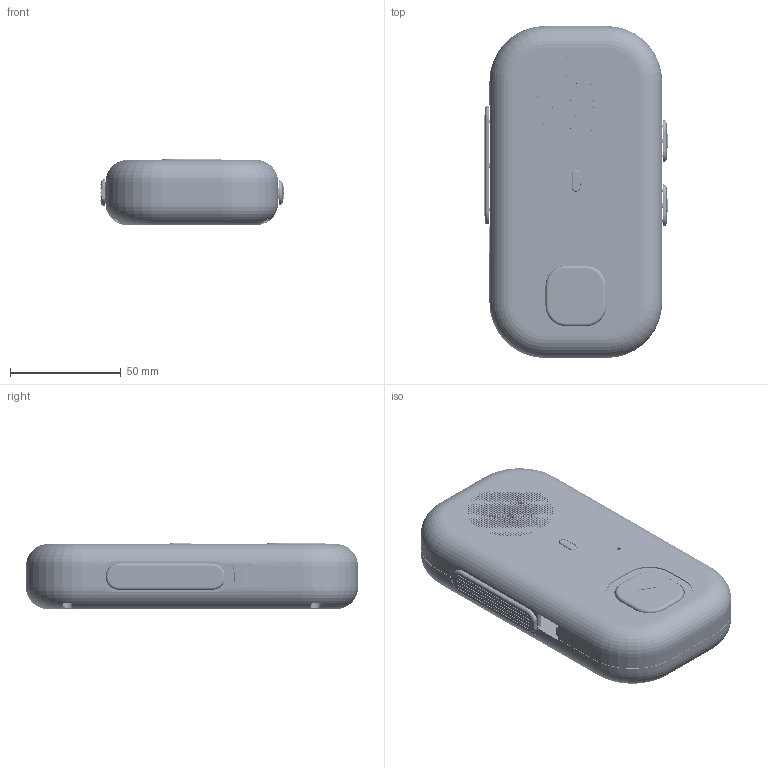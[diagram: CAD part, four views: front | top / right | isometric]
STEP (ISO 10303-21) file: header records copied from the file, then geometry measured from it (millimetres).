
FILE_DESCRIPTION(('Open CASCADE Model'),'2;1');
FILE_NAME('Open CASCADE Shape Model','2026-09-08T12:56:38',('Author'),( 'Open CASCADE'),'Open CASCADE STEP processor 7.7','Open CASCADE 7.7' ,'Unknown');
FILE_SCHEMA(('AUTOMOTIVE_DESIGN { 1 0 10303 214 1 1 1 1 }'));
Length unit declared in the file: millimetre
Products named in the file (22): Walkie_One_26_E1_CASE_REVIEW_ONLY; BACK_SHELL; BACK_SHELL_part; FRONT_ACTION_BUTTON; FRONT_ACTION_BUTTON_part; FRONT_SHELL; FRONT_SHELL_part; FRONT_SWITCH_CLAMP; FRONT_SWITCH_CLAMP_part; LED_SERVICE_CLAMP; LED_SERVICE_CLAMP_part; LEFT_PTT_BUTTON; LEFT_PTT_BUTTON_part; MIC_ACOUSTIC_GASKET_INSTALLED_ENVELOPE; MIC_ACOUSTIC_GASKET_INSTALLED_ENVELOPE_part; STATUS_LIGHT_LENS; STATUS_LIGHT_LENS_part; VOLUME_DOWN_BUTTON; VOLUME_DOWN_BUTTON_part; VOLUME_UP_BUTTON; VOLUME_UP_BUTTON_part
Assembly tree (21 placements, depth 4):
  Walkie_One_26_E1_CASE_REVIEW_ONLY
    Walkie_One_26_E1_CASE_REVIEW_ONLY
      BACK_SHELL
        BACK_SHELL_part
      FRONT_ACTION_BUTTON
        FRONT_ACTION_BUTTON_part
      FRONT_SHELL
        FRONT_SHELL_part
      FRONT_SWITCH_CLAMP
        FRONT_SWITCH_CLAMP_part
      LED_SERVICE_CLAMP
        LED_SERVICE_CLAMP_part
      LEFT_PTT_BUTTON
        LEFT_PTT_BUTTON_part
      MIC_ACOUSTIC_GASKET_INSTALLED_ENVELOPE
        MIC_ACOUSTIC_GASKET_INSTALLED_ENVELOPE_part
      STATUS_LIGHT_LENS
        STATUS_LIGHT_LENS_part
      VOLUME_DOWN_BUTTON
        VOLUME_DOWN_BUTTON_part
      VOLUME_UP_BUTTON
        VOLUME_UP_BUTTON_part
Bounding box: 82.72 x 150 x 30.05 mm (x, y, z)
Volume: 68111.7 mm3; surface area: 80408.6 mm2
Topology: 10 solids, 12 shells, 3372 faces, 9622 edges, 6367 vertices
Faces by surface type: bspline 1486, plane 1125, cylinder 704, torus 53, sphere 2, cone 2
Full cylindrical faces by diameter (mm): 0.884 x1, 1.7 x6, 1.8 x2, 2.1 x4, 2.2 x2, 2.6 x2, 2.9 x8, 3 x4, 4.2 x13, 4.8 x1, 5 x1
Entity records: 323489 total; most frequent: CARTESIAN_POINT 146324, DIRECTION 27306, ORIENTED_EDGE 19244, PCURVE 19244, DEFINITIONAL_REPRESENTATION 19244, LINE 13782, VECTOR 13782, EDGE_CURVE 9622
